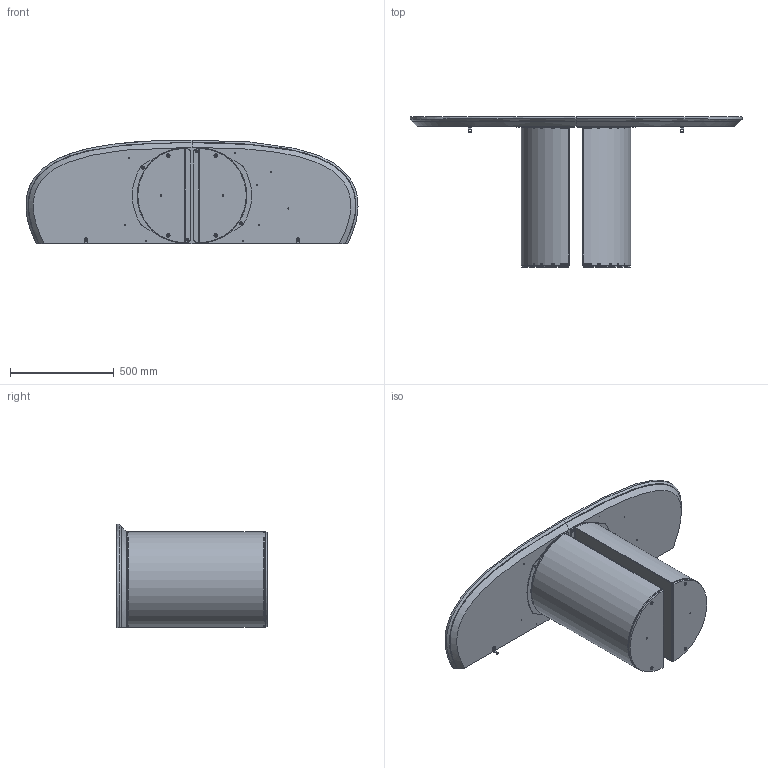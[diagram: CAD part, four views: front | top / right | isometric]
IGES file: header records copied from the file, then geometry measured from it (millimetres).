
Start section: SolidWorks IGES file using analytic representation for surfaces
Global section: file name: Y:\eforma\TECNICO\SOLIDWORKS\E-FORMA\3-CONSOLE\DORA CONSOLE\02 parts\DR60M_Dora Console_160x50x72h_Marble Shaped.IGS; native system: SolidWorks 2022; preprocessor: SolidWorks 2022; author: eforma.tech; date: 240806.114216; units: millimetre
Bounding box: 1599.87 x 723 x 500 mm (x, y, z)
Volume: 37236431.6 mm3; surface area: 7230260 mm2
Topology: 26 solids, 26 shells, 652 faces, 1456 edges, 826 vertices
Faces by surface type: revolution 362, plane 282, bspline 8
